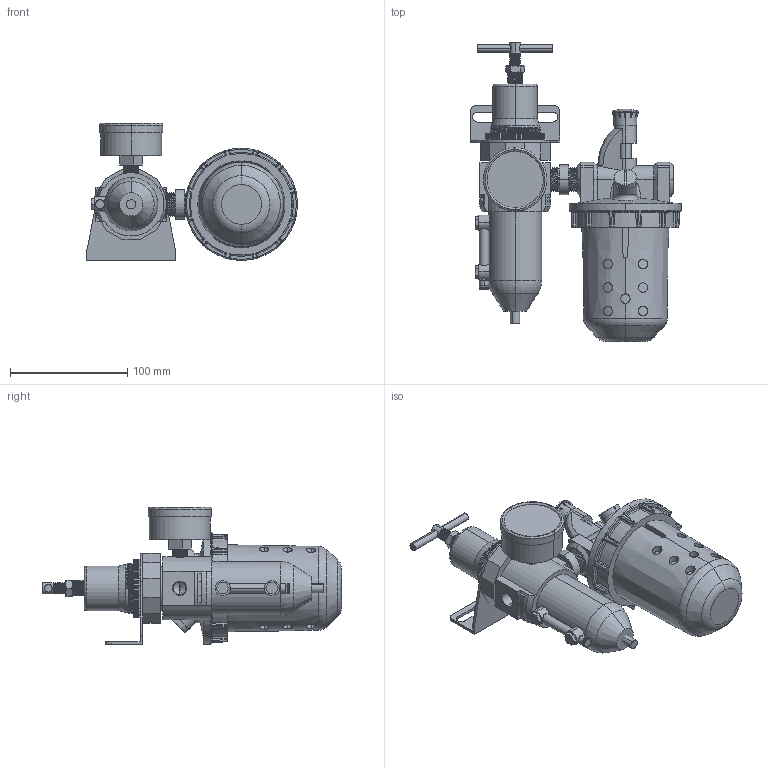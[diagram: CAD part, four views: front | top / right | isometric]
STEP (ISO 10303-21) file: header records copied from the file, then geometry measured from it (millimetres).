
FILE_DESCRIPTION (( 'STEP AP203' ), '1' );
FILE_NAME ('U668-04#YB#.STEP', '2016-01-14T17:15:22', ( '' ), ( '' ), 'SwSTEP 2.0', 'SolidWorks 2014', '' );
FILE_SCHEMA (( 'CONFIG_CONTROL_DESIGN' ));
Length unit declared in the file: millimetre
Products named in the file (25): B011W-1; L606-W-06-5; L606-04; R119-02-6; L606-W-06-4; KWSAR10Y57-1; D011W-6; B012W-02#YGB#; U668-04#YB#; R011-1; R119-02-7; D011W-04-刻度計; D011W-5; L606-W-04-1; 1-2-圓; L606-W-06-3; KWSAR10Y57; 50-P-AD=1-4PT-1; D011W-4; R119-02-5; 50-P-AD=1-4PT-2; R011-上半部; KWR10X51; 50-P-AD=1-4PT.SLDPRT
Assembly tree (26 placements, depth 5):
  U668-04#YB#
    B012W-02#YGB#
      B011W-1
      50-P-AD=1-4PT.SLDPRT
        50-P-AD=1-4PT-1
        50-P-AD=1-4PT-2
      L606-W-06-5
      D011W-04-刻度計
        D011W-5  x2
        D011W-4
        D011W-6
      R011-上半部
        KWSAR10Y57
          KWSAR10Y57-1
          KWR10X51
        R011-1
        R119-02-5
        R119-02-6
        R119-02-7
    L606-04
      L606-W-06-4
      L606-W-06-3  x2
      L606-W-04-1
      L606-04
    1-2-圓
Bounding box: 179.75 x 255 x 117 mm (x, y, z)
Volume: 1018448.2 mm3; surface area: 139484.7 mm2
Topology: 20 solids, 20 shells, 1245 faces, 3321 edges, 2122 vertices
Faces by surface type: plane 589, cylinder 351, cone 120, bspline 118, torus 37, sphere 30
Entity records: 57461 total; most frequent: CARTESIAN_POINT 25893, ORIENTED_EDGE 6486, DIRECTION 5569, EDGE_CURVE 3243, VERTEX_POINT 2094, AXIS2_PLACEMENT_3D 1949, LINE 1671, VECTOR 1671
